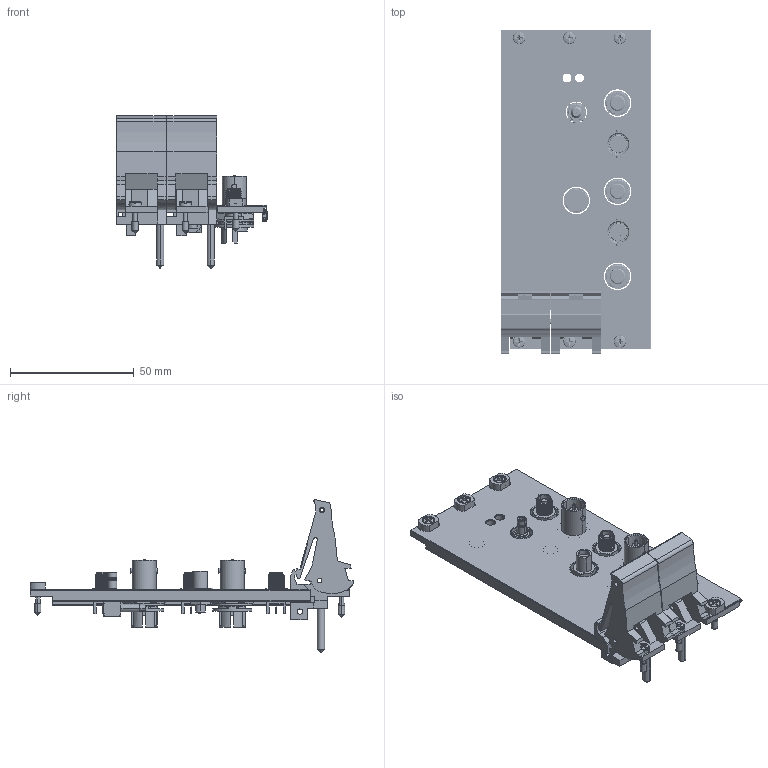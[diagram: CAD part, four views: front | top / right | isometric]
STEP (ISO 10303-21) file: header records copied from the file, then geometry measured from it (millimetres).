
FILE_DESCRIPTION((''),'2;1');
FILE_NAME('CU_PXIE-518X','2012-06-07T',('jjorden'),(''),'PRO/ENGINEER BY PARAMETRIC TECHNOLOGY CORPORATION, 2010230','PRO/ENGINEER BY PARAMETRIC TECHNOLOGY CORPORATION, 2010230','');
FILE_SCHEMA(('CONFIG_CONTROL_DESIGN'));
Length unit declared in the file: inch
Products named in the file (1): CU_PXIE-518X
Bounding box: 60.88 x 130.51 x 61.53 mm (x, y, z)
Volume: 39894.2 mm3; surface area: 43646.3 mm2
Topology: 13 solids, 19 shells, 2045 faces, 5298 edges, 3363 vertices
Faces by surface type: plane 966, cylinder 679, cone 210, bspline 150, sphere 20, torus 16, extrusion 4
Entity records: 88675 total; most frequent: CARTESIAN_POINT 40089, ORIENTED_EDGE 10516, DIRECTION 9389, EDGE_CURVE 5270, VERTEX_POINT 3399, AXIS2_PLACEMENT_3D 3292, VECTOR 2805, LINE 2801
